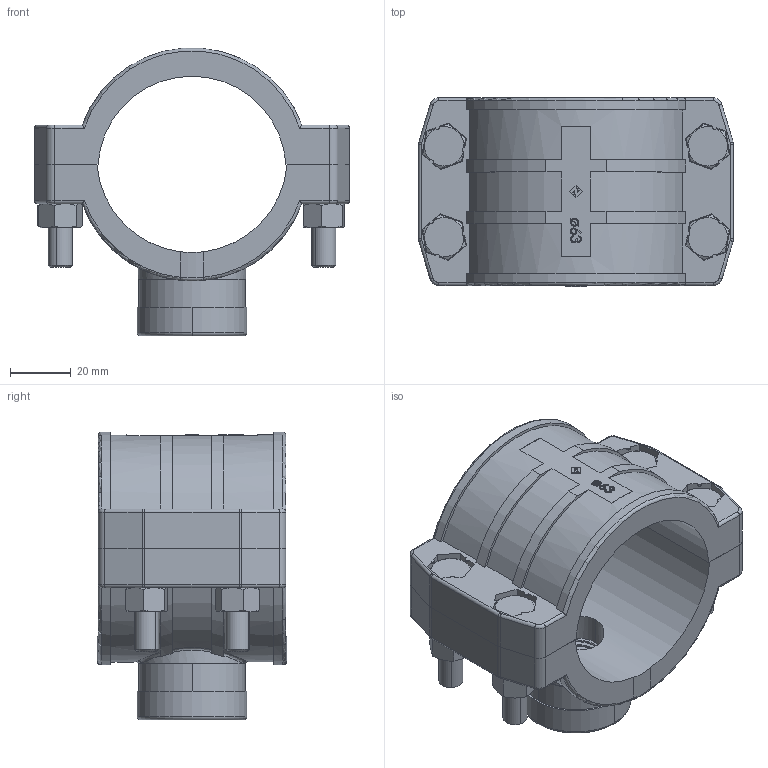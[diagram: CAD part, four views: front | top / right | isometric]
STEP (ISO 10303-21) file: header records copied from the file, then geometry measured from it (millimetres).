
FILE_DESCRIPTION (( 'STEP AP214' ), '1' );
FILE_NAME ('158001054 - Staffa 63 - 1-2''''.STEP', '2021-11-23T07:32:19', ( '' ), ( '' ), 'SwSTEP 2.0', 'SolidWorks 2021', '' );
FILE_SCHEMA (( 'AUTOMOTIVE_DESIGN' ));
Length unit declared in the file: millimetre
Products named in the file (1): 158001054 - Staffa 63 - 1-2''''
Bounding box: 104 x 62.44 x 94.97 mm (x, y, z)
Volume: 165287.1 mm3; surface area: 59236.5 mm2
Topology: 11 solids, 11 shells, 629 faces, 1542 edges, 962 vertices
Faces by surface type: plane 283, cylinder 159, cone 96, bspline 55, torus 36
Entity records: 55999 total; most frequent: CARTESIAN_POINT 34457, ORIENTED_EDGE 3084, DIRECTION 2902, EDGE_CURVE 1542, AXIS2_PLACEMENT_3D 1083, VERTEX_POINT 962, VECTOR 736, LINE 736
